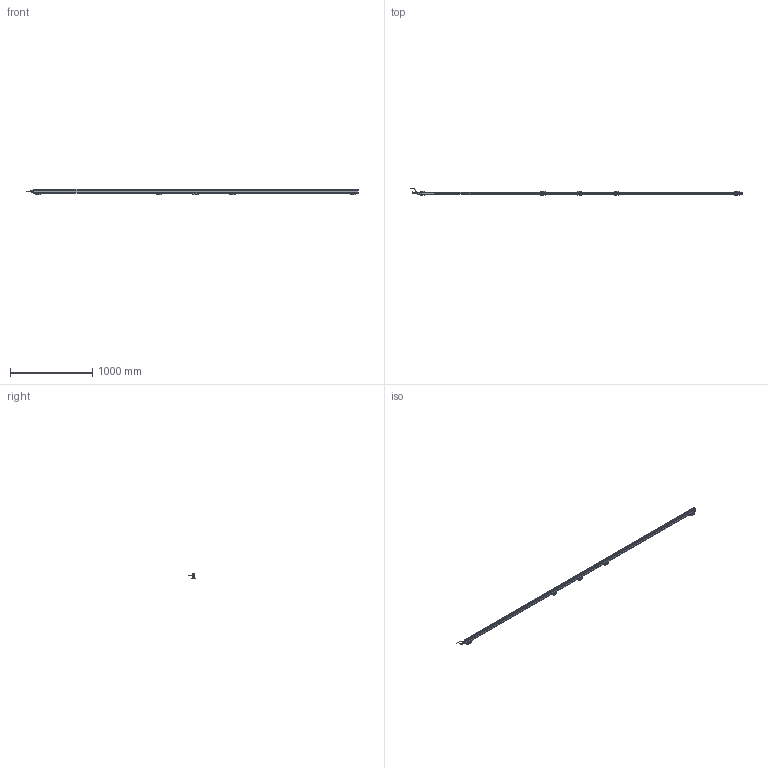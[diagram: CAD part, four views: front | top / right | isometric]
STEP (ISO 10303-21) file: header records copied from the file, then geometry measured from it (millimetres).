
FILE_DESCRIPTION(('Bauteilbeschreibung','HiCAD-Model','HiCAD-STEP-TRANSLATION','Bauteilbeschreibung'),'2;1');
FILE_NAME('PERFORMAXIQEASY_3870-3960_3D.STP','2014-03-05T13:30:03+00:00',('Konstrukteur'),('Konstrukteur Firma GmbH'),' HiCAD 2011, Step 1600.0 ','HiCAD 2011','confidential');
FILE_SCHEMA(('AUTOMOTIVE_DESIGN { 1 2 10303 214 0 1 1 1 }'));
Products named in the file (51): PERFORMAXIQEASY_3870_3960_3D; A_PERFORMAX IQ EASY 3870_3960; A_PERFORMAX IQ EASY SPEED; A_CAP DE; A_CAP CE_5; LED_2C_3MM; LED02C03MM; A519020315_CONNECTOR APPLIANCE; A_INSERT; A_CONTACTS; A_HOUSING; A_PROFILE; A_POTTING; PIN; PIN0; A532000100_BRACKET BARS_ MOUNT; A_SIDE PIECE; A0SIDE0PIECE; A_BRACKET SMALL; A_SLIDE PIECE; A5320001000BRACKET0BARS00MOUNT; A0SIDE0PIECE0; A0SIDE0PIECE1; A0BRACKET0SMALL; A0SLIDE0PIECE; A5320001000BRACKET0BARS00MOUNT0; A0SIDE0PIECE2; A0SIDE0PIECE3; A0BRACKET0SMALL0; A0SLIDE0PIECE0; A0SIDE0PIECE4; A0SIDE0PIECE5; A0BRACKET0SMALL1; A0SLIDE0PIECE1; A0SIDE0PIECE6; A0SIDE0PIECE7; A0BRACKET0SMALL2; A0SLIDE0PIECE2; A_CONNECTOR STRAIGHT; EXTRUDED SOLID_0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
Assembly tree (50 placements, depth 5):
  PERFORMAXIQEASY_3870_3960_3D
    A_PERFORMAX IQ EASY 3870_3960
      A_PERFORMAX IQ EASY SPEED
        A_CAP DE
        A_CAP CE_5
        LED_2C_3MM
        LED02C03MM
        A519020315_CONNECTOR APPLIANCE
          A_INSERT
          A_CONTACTS
          A_HOUSING
        A_PROFILE
        A_POTTING
        PIN
        PIN0
      A532000100_BRACKET BARS_ MOUNT
        A_SIDE PIECE
        A0SIDE0PIECE
        A_BRACKET SMALL
        A_SLIDE PIECE
      A5320001000BRACKET0BARS00MOUNT
        A0SIDE0PIECE0
        A0SIDE0PIECE1
        A0BRACKET0SMALL
        A0SLIDE0PIECE
      A5320001000BRACKET0BARS00MOUNT0
        A0SIDE0PIECE2
        A0SIDE0PIECE3
        A0BRACKET0SMALL0
        A0SLIDE0PIECE0
      A5320001000BRACKET0BARS00MOUNT0
        A0SIDE0PIECE4
        A0SIDE0PIECE5
        A0BRACKET0SMALL1
        A0SLIDE0PIECE1
      A5320001000BRACKET0BARS00MOUNT0
        A0SIDE0PIECE6
        A0SIDE0PIECE7
        A0BRACKET0SMALL2
        A0SLIDE0PIECE2
      A_CONNECTOR STRAIGHT
        EXTRUDED SOLID_0
        DRAAD GEBOGEN
        REVOLVED SOLID_1
        REVOLVED SOLID_3
      A_CONNECTOR ANGLED
        REVOLVED0SOLID01
        EXTRUDED0SOLID00
        C_EDGE SWEEP_0
        REVOLVED SOLID_2
        REVOLVED0SOLID03
Bounding box: 4037.89 x 84.16 x 63.13 mm (x, y, z)
Volume: 4054085.3 mm3; surface area: 967871.4 mm2
Topology: 45 solids, 45 shells, 4215 faces, 10820 edges, 6422 vertices
Faces by surface type: cylinder 1797, plane 1597, sphere 277, torus 252, bspline 208, cone 84
Full cylindrical faces by diameter (mm): 0.8 x10, 1 x5, 2.387 x10, 3 x23, 3.1 x1, 4.2 x2, 5 x4, 5.5 x25, 8 x2, 8.2 x1, 8.4 x2, 8.945 x1, 9 x2, 10.2 x1, 10.5 x3, 11 x1, 12 x3, 12.8 x1, 13.8 x4, 14.5 x3
Entity records: 195163 total; most frequent: CARTESIAN_POINT 45850, DIRECTION 20961, ORIENTED_EDGE 20534, EDGE_CURVE 10267, COLOUR_RGB 9750, PRESENTATION_STYLE_ASSIGNMENT 9750, OVER_RIDING_STYLED_ITEM 9710, CURVE_STYLE 9705
